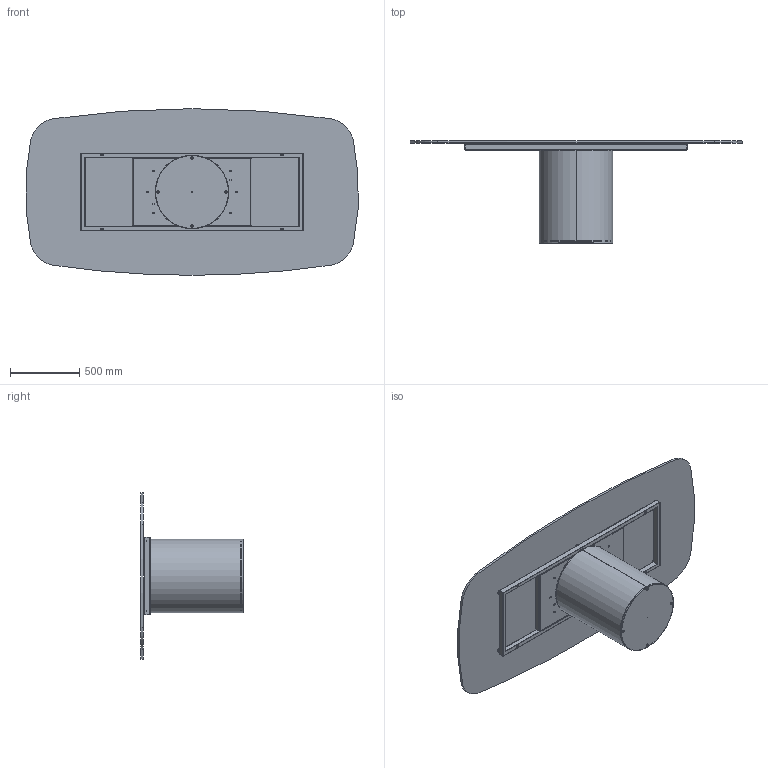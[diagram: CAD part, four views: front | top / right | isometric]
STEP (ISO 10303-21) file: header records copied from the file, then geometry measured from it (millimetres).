
FILE_DESCRIPTION (( 'STEP AP203' ), '1' );
FILE_NAME ('CI43G.STEP', '2024-08-08T07:26:21', ( '' ), ( '' ), 'SwSTEP 2.0', 'SolidWorks 2022', '' );
FILE_SCHEMA (( 'CONFIG_CONTROL_DESIGN' ));
Length unit declared in the file: millimetre
Products named in the file (11): TTAV01_02-05-VASSOIO IRRIGIDIMENTO TELAIO UNIVERSALE; TTAV01_01-05-TELAIO UNIVERSALE X TAVOLI 180 240cm; COLLO TELAIO UNIVERSALE TTAV01 CON FERRAMENTA_MTG TOP CRISTALLO VERNICIATO-CERAMICA; C2B000000_02-01-ZAVORRA IN FERRO D.530mm; TTAV01-05-TELAIO UNIVERSALE X TAVOLI 180 240cm; C2B000000_01-00-struttura cilindro D.530mm; CI43G; 434070-00-PIEDINO TPV GOMMA NERO D. 30x8max18_filo estetico; M8xXXmm_hex_M8X20mm; C2B000000-03-CILINDRO BASE D.530mm_Normale; C4XCRXX-00-Piani Sagomati in Cristallo_2400 x 1200
Assembly tree (18 placements, depth 4):
  CI43G
    C2B000000-03-CILINDRO BASE D.530mm_Normale
      C2B000000_01-00-struttura cilindro D.530mm
      C2B000000_02-01-ZAVORRA IN FERRO D.530mm
      M8xXXmm_hex_M8X20mm  x4
    COLLO TELAIO UNIVERSALE TTAV01 CON FERRAMENTA_MTG TOP CRISTALLO VERNICIATO-CERAMICA
      TTAV01-05-TELAIO UNIVERSALE X TAVOLI 180 240cm
        TTAV01_02-05-VASSOIO IRRIGIDIMENTO TELAIO UNIVERSALE
        TTAV01_01-05-TELAIO UNIVERSALE X TAVOLI 180 240cm
      434070-00-PIEDINO TPV GOMMA NERO D. 30x8max18_filo estetico  x6
    C4XCRXX-00-Piani Sagomati in Cristallo_2400 x 1200
Bounding box: 2391.62 x 735 x 1200 mm (x, y, z)
Volume: 48504999.2 mm3; surface area: 10518070 mm2
Topology: 24 solids, 24 shells, 569 faces, 1327 edges, 792 vertices
Faces by surface type: plane 252, cylinder 231, cone 32, torus 32, sphere 22
Entity records: 13664 total; most frequent: DIRECTION 2267, CARTESIAN_POINT 2083, ORIENTED_EDGE 2010, EDGE_CURVE 1005, AXIS2_PLACEMENT_3D 839, VERTEX_POINT 623, LINE 589, VECTOR 589
